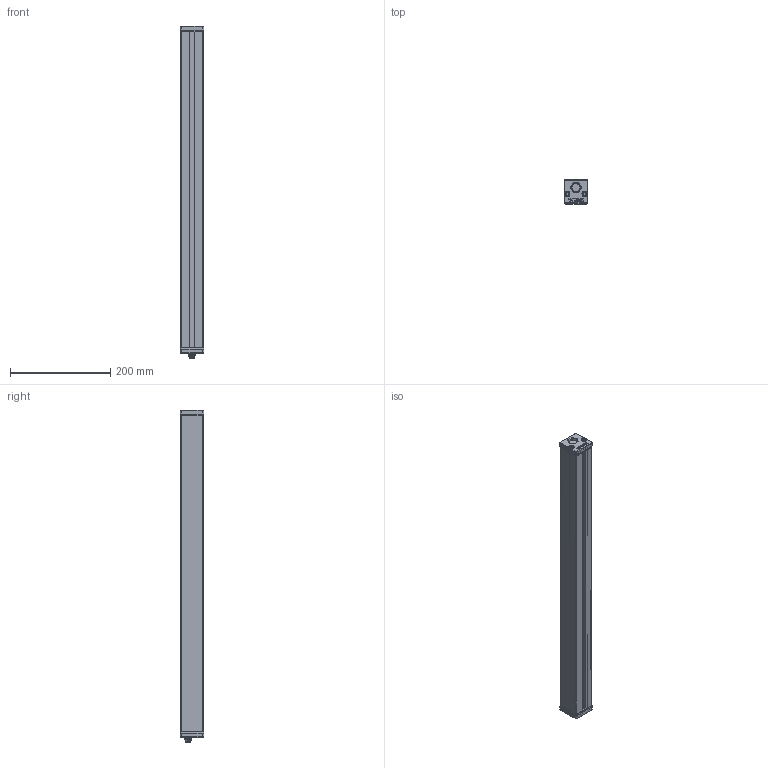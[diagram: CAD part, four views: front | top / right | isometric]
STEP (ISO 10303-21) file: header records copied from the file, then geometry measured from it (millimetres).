
FILE_DESCRIPTION (( 'STEP AP214' ), '1' );
FILE_NAME ('BLBAR 25.STEP', '2012-02-13T13:38:08', ( ' ' ), ( '' ), 'SwSTEP 2.0', 'SolidWorks 2009', '' );
FILE_SCHEMA (( 'AUTOMOTIVE_DESIGN' ));
Length unit declared in the file: millimetre
Products named in the file (1): BLBAR 25
Bounding box: 47.2 x 47 x 662.1 mm (x, y, z)
Volume: 339435.7 mm3; surface area: 334581.5 mm2
Topology: 1 solids, 3 shells, 599 faces, 1564 edges, 1007 vertices
Faces by surface type: plane 311, cylinder 156, bspline 66, torus 38, cone 20, sphere 8
Entity records: 34060 total; most frequent: CARTESIAN_POINT 13050, ORIENTED_EDGE 3096, DIRECTION 2810, EDGE_CURVE 1548, VERTEX_POINT 999, VECTOR 950, LINE 950, AXIS2_PLACEMENT_3D 930
